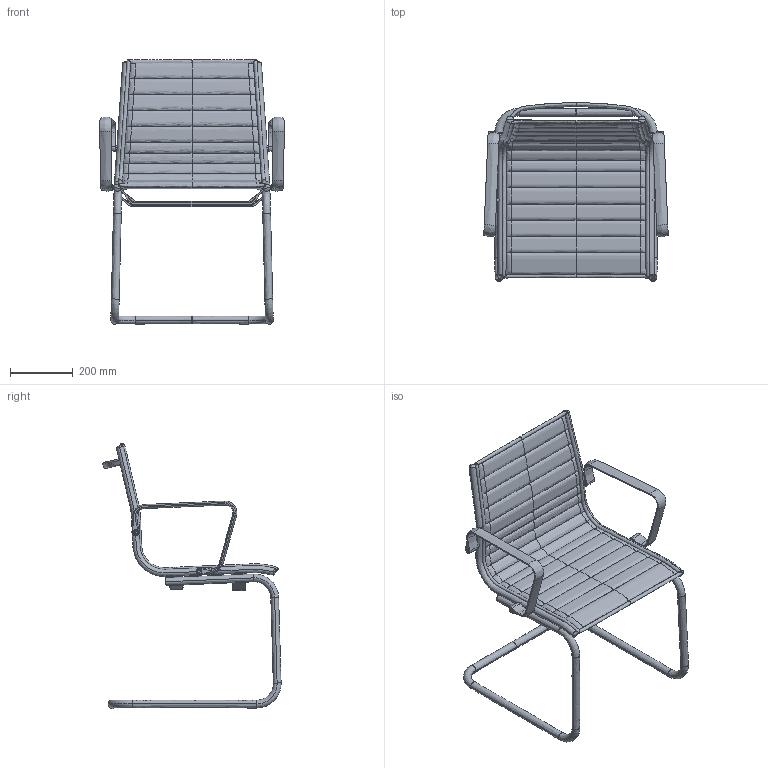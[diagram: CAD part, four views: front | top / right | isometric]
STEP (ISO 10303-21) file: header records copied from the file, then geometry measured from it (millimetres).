
FILE_DESCRIPTION(/* description */ (''),/* implementation_level */ '2;1');
FILE_NAME(/* name */ 'FLY714~1',/* time_stamp */ '2017-10-19T14:56:35+02:00',/* author */ (''),/* organization */ (''),/* preprocessor_version */ 'ST-DEVELOPER v15',/* originating_system */ '',/* authorisation */ '');
FILE_SCHEMA (('CONFIG_CONTROL_DESIGN'));
Length unit declared in the file: millimetre
Products named in the file (1): Document
Bounding box: 589.59 x 569.59 x 848.44 mm (x, y, z)
Volume: 1834356.2 mm3; surface area: 1536972.8 mm2
Topology: 15 solids, 24 shells, 356 faces, 853 edges, 536 vertices
Faces by surface type: bspline 254, plane 102
Entity records: 25118 total; most frequent: CARTESIAN_POINT 20066, ORIENTED_EDGE 1606, EDGE_CURVE 842, VERTEX_POINT 530, B_SPLINE_CURVE_WITH_KNOTS 425, EDGE_LOOP 370, ADVANCED_FACE 356, FACE_OUTER_BOUND 356
